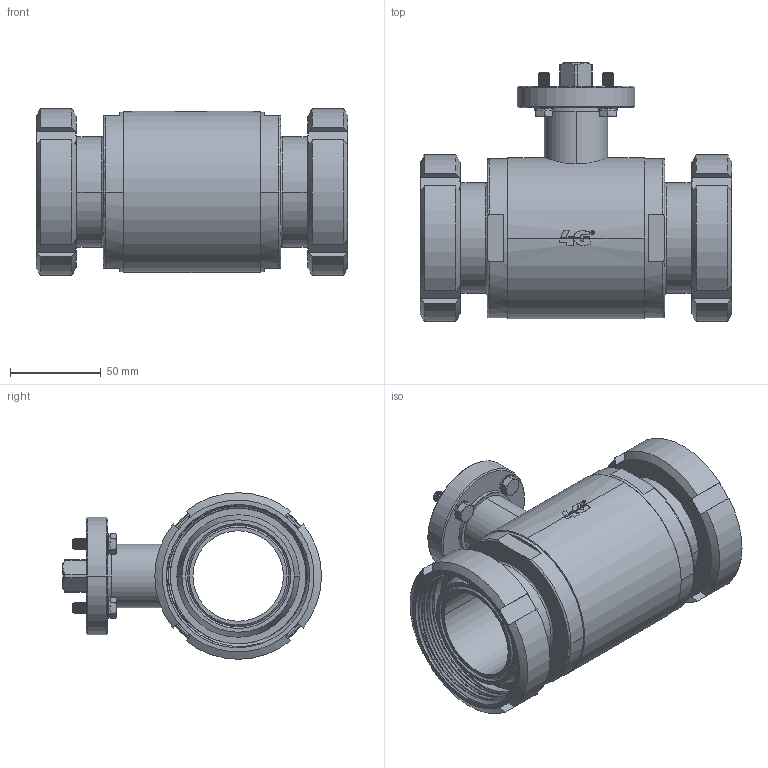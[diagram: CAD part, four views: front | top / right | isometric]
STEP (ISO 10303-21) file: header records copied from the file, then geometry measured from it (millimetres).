
FILE_DESCRIPTION((''),'2;1');
FILE_NAME('10302763810','2017-10-06T',('UFFICIO TECNICO'),('CDM Tecnoconsulting'),'CREO PARAMETRIC BY PTC INC, 2015290','CREO PARAMETRIC BY PTC INC, 2015290','');
FILE_SCHEMA(('CONFIG_CONTROL_DESIGN'));
Length unit declared in the file: millimetre
Products named in the file (1): 10302763810
Bounding box: 172 x 143 x 92 mm (x, y, z)
Surface area: 178885.7 mm2 (no closed solid volume)
Topology: 0 solids, 50 shells, 891 faces, 3244 edges, 2353 vertices
Faces by surface type: cylinder 309, plane 277, cone 169, bspline 114, torus 18, sphere 4
Entity records: 73732 total; most frequent: CARTESIAN_POINT 49135, ORIENTED_EDGE 5248, DIRECTION 4110, EDGE_CURVE 3238, VERTEX_POINT 2353, AXIS2_PLACEMENT_3D 1516, B_SPLINE_CURVE_WITH_KNOTS 1421, VECTOR 1078
